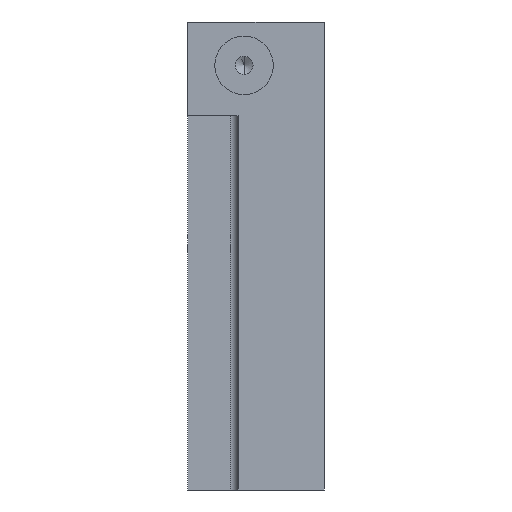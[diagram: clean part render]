
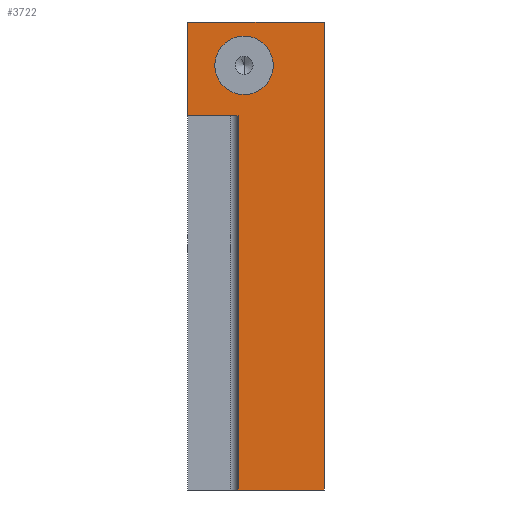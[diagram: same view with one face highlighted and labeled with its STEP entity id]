
A CAD part, front view. The second image highlights one B-rep face of the part: STEP entity #3722.
In plain terms, the highlighted planar face has unit normal (0, -1, 0).
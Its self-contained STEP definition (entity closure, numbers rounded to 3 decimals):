
#33 = CARTESIAN_POINT ( 'NONE',  ( 19., 4., 0. ) ) ;
#45 = EDGE_CURVE ( 'NONE', #4993, #1384, #2666, .T. ) ;
#60 = LINE ( 'NONE', #1083, #3401 ) ;
#295 = CARTESIAN_POINT ( 'NONE',  ( 7.838, 4., 63.044 ) ) ;
#482 = CARTESIAN_POINT ( 'NONE',  ( 7.838, 4., 58.98 ) ) ;
#501 = DIRECTION ( 'NONE',  ( 0., 0., -1. ) ) ;
#539 = CIRCLE ( 'NONE', #4463, 4.064 ) ;
#742 = EDGE_CURVE ( 'NONE', #3945, #1850, #3794, .T. ) ;
#856 = DIRECTION ( 'NONE',  ( 0., 0., -1. ) ) ;
#893 = CIRCLE ( 'NONE', #3370, 4.064 ) ;
#1001 = DIRECTION ( 'NONE',  ( 0., 0., 1. ) ) ;
#1049 = VECTOR ( 'NONE', #4161, 1000. ) ;
#1083 = CARTESIAN_POINT ( 'NONE',  ( 19., 4., 65. ) ) ;
#1098 = ORIENTED_EDGE ( 'NONE', *, *, #2174, .F. ) ;
#1262 = DIRECTION ( 'NONE',  ( 0., 0., -1. ) ) ;
#1319 = DIRECTION ( 'NONE',  ( 0., -1., 0. ) ) ;
#1328 = ORIENTED_EDGE ( 'NONE', *, *, #3706, .T. ) ;
#1384 = VERTEX_POINT ( 'NONE', #4345 ) ;
#1413 = VECTOR ( 'NONE', #4385, 1000. ) ;
#1415 = ORIENTED_EDGE ( 'NONE', *, *, #3520, .T. ) ;
#1522 = VERTEX_POINT ( 'NONE', #2439 ) ;
#1601 = VERTEX_POINT ( 'NONE', #4541 ) ;
#1799 = CARTESIAN_POINT ( 'NONE',  ( 0., 4., 65. ) ) ;
#1850 = VERTEX_POINT ( 'NONE', #4841 ) ;
#1882 = CARTESIAN_POINT ( 'NONE',  ( 7., 4., 0. ) ) ;
#1938 = FACE_BOUND ( 'NONE', #3336, .T. ) ;
#2126 = CARTESIAN_POINT ( 'NONE',  ( 7., 4., 52. ) ) ;
#2174 = EDGE_CURVE ( 'NONE', #3610, #1601, #893, .T. ) ;
#2189 = LINE ( 'NONE', #1882, #4974 ) ;
#2435 = LINE ( 'NONE', #1799, #1049 ) ;
#2439 = CARTESIAN_POINT ( 'NONE',  ( 0., 4., 65. ) ) ;
#2441 = DIRECTION ( 'NONE',  ( 0., -1., 0. ) ) ;
#2541 = ORIENTED_EDGE ( 'NONE', *, *, #4540, .T. ) ;
#2666 = LINE ( 'NONE', #4208, #4249 ) ;
#2746 = DIRECTION ( 'NONE',  ( -1., 0., 0. ) ) ;
#2747 = ORIENTED_EDGE ( 'NONE', *, *, #742, .T. ) ;
#2905 = PLANE ( 'NONE',  #3932 ) ;
#2995 = ORIENTED_EDGE ( 'NONE', *, *, #4222, .T. ) ;
#3018 = FACE_OUTER_BOUND ( 'NONE', #3158, .T. ) ;
#3158 = EDGE_LOOP ( 'NONE', ( #2747, #2995, #3883, #1415, #2541, #1328 ) ) ;
#3270 = CARTESIAN_POINT ( 'NONE',  ( 7.838, 4., 58.98 ) ) ;
#3322 = ORIENTED_EDGE ( 'NONE', *, *, #4886, .F. ) ;
#3336 = EDGE_LOOP ( 'NONE', ( #3322, #1098 ) ) ;
#3370 = AXIS2_PLACEMENT_3D ( 'NONE', #3270, #2441, #856 ) ;
#3401 = VECTOR ( 'NONE', #2746, 1000. ) ;
#3520 = EDGE_CURVE ( 'NONE', #1384, #1522, #60, .T. ) ;
#3547 = VERTEX_POINT ( 'NONE', #5109 ) ;
#3610 = VERTEX_POINT ( 'NONE', #295 ) ;
#3650 = DIRECTION ( 'NONE',  ( 0., -1., 0. ) ) ;
#3706 = EDGE_CURVE ( 'NONE', #3547, #3945, #4081, .T. ) ;
#3722 = ADVANCED_FACE ( 'NONE', ( #3018, #1938 ), #2905, .T. ) ;
#3794 = LINE ( 'NONE', #5202, #1413 ) ;
#3883 = ORIENTED_EDGE ( 'NONE', *, *, #45, .T. ) ;
#3932 = AXIS2_PLACEMENT_3D ( 'NONE', #4544, #3650, #1262 ) ;
#3943 = VECTOR ( 'NONE', #5197, 1000. ) ;
#3945 = VERTEX_POINT ( 'NONE', #2126 ) ;
#4081 = LINE ( 'NONE', #4790, #3943 ) ;
#4161 = DIRECTION ( 'NONE',  ( 0., 0., -1. ) ) ;
#4208 = CARTESIAN_POINT ( 'NONE',  ( 19., 4., 52. ) ) ;
#4222 = EDGE_CURVE ( 'NONE', #1850, #4993, #2189, .T. ) ;
#4249 = VECTOR ( 'NONE', #1001, 1000. ) ;
#4345 = CARTESIAN_POINT ( 'NONE',  ( 19., 4., 65. ) ) ;
#4385 = DIRECTION ( 'NONE',  ( 0., 0., -1. ) ) ;
#4463 = AXIS2_PLACEMENT_3D ( 'NONE', #482, #1319, #501 ) ;
#4540 = EDGE_CURVE ( 'NONE', #1522, #3547, #2435, .T. ) ;
#4541 = CARTESIAN_POINT ( 'NONE',  ( 7.838, 4., 54.916 ) ) ;
#4544 = CARTESIAN_POINT ( 'NONE',  ( 0., 4., 0. ) ) ;
#4747 = DIRECTION ( 'NONE',  ( 1., 0., 0. ) ) ;
#4790 = CARTESIAN_POINT ( 'NONE',  ( 0., 4., 52. ) ) ;
#4841 = CARTESIAN_POINT ( 'NONE',  ( 7., 4., 0. ) ) ;
#4886 = EDGE_CURVE ( 'NONE', #1601, #3610, #539, .T. ) ;
#4974 = VECTOR ( 'NONE', #4747, 1000. ) ;
#4993 = VERTEX_POINT ( 'NONE', #33 ) ;
#5109 = CARTESIAN_POINT ( 'NONE',  ( 0., 4., 52. ) ) ;
#5197 = DIRECTION ( 'NONE',  ( 1., 0., 0. ) ) ;
#5202 = CARTESIAN_POINT ( 'NONE',  ( 7., 4., 52. ) ) ;
